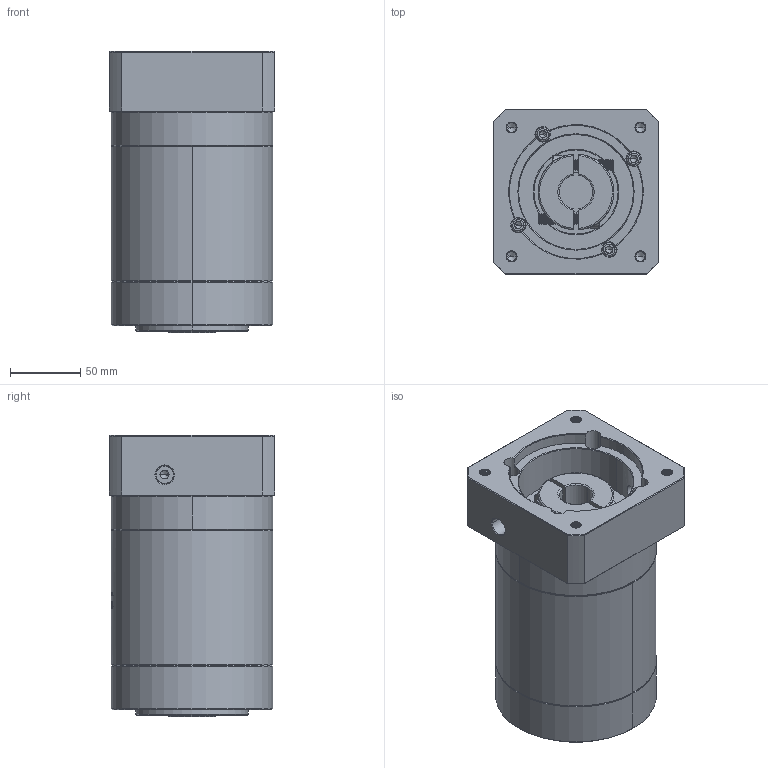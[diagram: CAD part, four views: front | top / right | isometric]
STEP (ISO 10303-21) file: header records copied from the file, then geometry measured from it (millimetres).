
FILE_DESCRIPTION (( 'STEP AP214' ), '1' );
FILE_NAME ('ZE120A-K25-L3-24-95-130-M8.step', '2023-03-09T06:35:37', ( '' ), ( '' ), 'SwSTEP 2.0', 'SolidWorks 2016', '' );
FILE_SCHEMA (( 'AUTOMOTIVE_DESIGN' ));
Length unit declared in the file: millimetre
Products named in the file (1): ZE120A-K25-L3-24-95-130-M8
Bounding box: 118 x 118 x 200.5 mm (x, y, z)
Volume: 1948482.5 mm3; surface area: 178878.5 mm2
Topology: 6 solids, 6 shells, 1978 faces, 5225 edges, 3340 vertices
Faces by surface type: plane 829, cylinder 490, bspline 324, cone 315, torus 20
Entity records: 113204 total; most frequent: CARTESIAN_POINT 46839, ORIENTED_EDGE 10378, DIRECTION 7843, EDGE_CURVE 5189, VERTEX_POINT 3340, VECTOR 2749, LINE 2749, AXIS2_PLACEMENT_3D 2547
